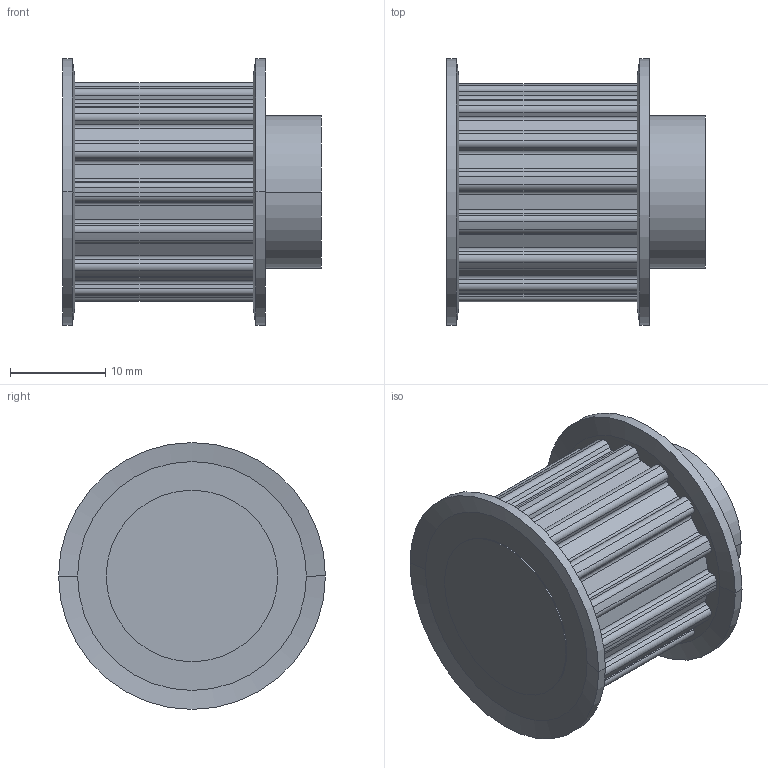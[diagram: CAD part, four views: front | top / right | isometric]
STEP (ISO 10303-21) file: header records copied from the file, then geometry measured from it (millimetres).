
FILE_DESCRIPTION( ( '' ), '1' );
FILE_NAME( 'C:/Users/Stangenbergd/Documents/CAD_Step/1/16231500.stp', '2021-10-19T08:43:36', ( '' ), ( '' ), ' ', ' ', ' ' );
FILE_SCHEMA( ( 'CONFIG_CONTROL_DESIGN' ) );
Length unit declared in the file: millimetre
Products named in the file (1): 1
Bounding box: 27.13 x 28 x 28 mm (x, y, z)
Volume: 9409.2 mm3; surface area: 3901.2 mm2
Topology: 1 solids, 1 shells, 146 faces, 409 edges, 270 vertices
Faces by surface type: cylinder 86, plane 52, cone 8
Entity records: 4813 total; most frequent: DIRECTION 883, CARTESIAN_POINT 826, ORIENTED_EDGE 818, EDGE_CURVE 409, AXIS2_PLACEMENT_3D 327, VERTEX_POINT 270, LINE 229, VECTOR 229
